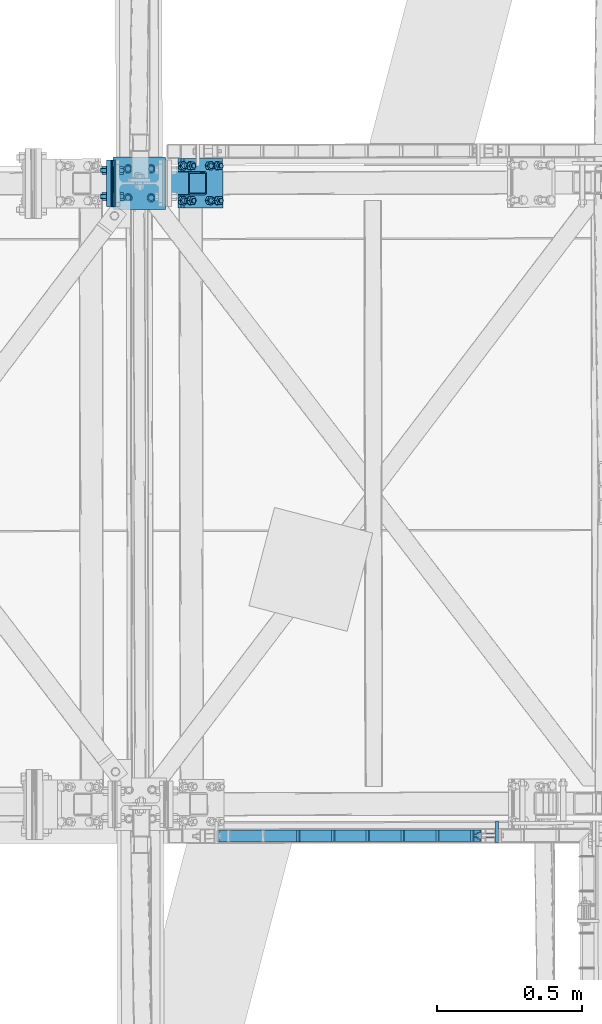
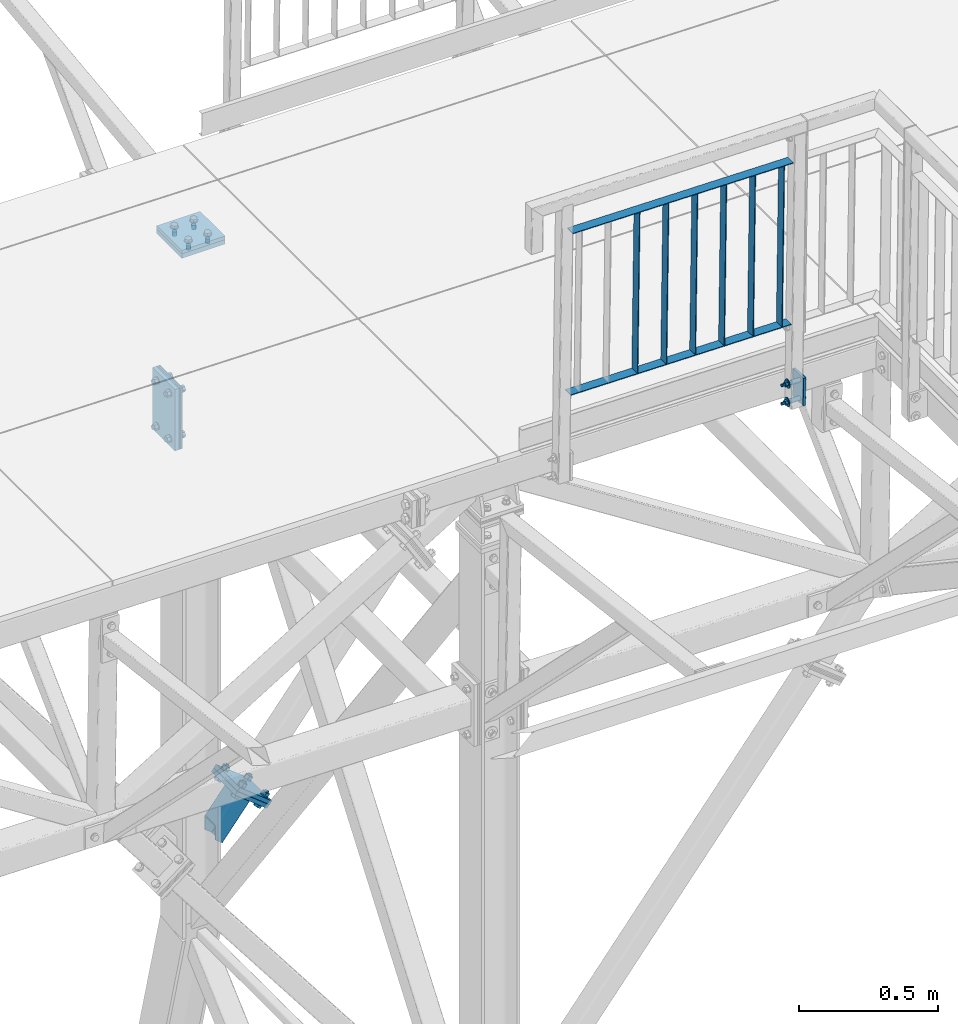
# One storey, part 107 of 169: 18 discrete accessories, 5 mechanical fasteners, 9 elements without a shape of their own.
"""IFC2X3 building model written with IfcOpenShell, lengths in millimetres."""

import ifcopenshell
import ifcopenshell.guid

model = None  # the IFC model being written
_history = None  # IfcOwnerHistory: only IFC2X3 demands one
_inside = {}  # id of a spatial element -> (the spatial element, [elements in it])
_under = {}  # id of a project, library or spatial element -> (it, [spatial elements below it])
_declared = {}  # id of a project -> (the project, [libraries it declares])
_typed = {}  # id of a type object -> (the type object, [elements of that type])
_made_of = {}  # id of a material, layer set ... -> (it, [elements and type objects made of it])


def new_model(schema):
    """Start an empty IFC model of exactly this schema.

    Asked for "IFC4X3", IfcOpenShell would pick the latest addendum, in which some entities
    have other attributes; the version numbers below select the first issue.
    IFC2X3 requires an IfcOwnerHistory on every rooted entity: one is made here for all.
    """
    global model, _history
    if schema == "IFC4X3":
        model = ifcopenshell.file(schema_version=(4, 3, 0, 0))
    else:
        model = ifcopenshell.file(schema=schema)
    _inside.clear()
    _under.clear()
    _declared.clear()
    _typed.clear()
    _made_of.clear()
    _history = None
    if model.schema == "IFC2X3":
        org = make("IfcOrganization", Name="unknown")
        user = make(
            "IfcPersonAndOrganization",
            ThePerson=make("IfcPerson", FamilyName="unknown"),
            TheOrganization=org,
        )
        app = make(
            "IfcApplication",
            ApplicationDeveloper=org,
            Version="unknown",
            ApplicationFullName="unknown",
            ApplicationIdentifier="unknown",
        )
        _history = make(
            "IfcOwnerHistory",
            OwningUser=user,
            OwningApplication=app,
            ChangeAction="ADDED",
            CreationDate=0,
        )
    return model


def make(cls, **values):
    """One entity of the class cls with the attributes given. An attribute that is None is left unset."""
    return model.create_entity(
        cls, **{name: value for name, value in values.items() if value is not None}
    )


def rooted(cls, **values):
    """An entity with a GlobalId (a new one), such as an element, a storey or a relation."""
    return make(cls, GlobalId=ifcopenshell.guid.new(), OwnerHistory=_history, **values)


def si_unit(unit_type, name, prefix=None):
    """IfcSIUnit, for example si_unit("LENGTHUNIT", "METRE", prefix="MILLI")."""
    return make("IfcSIUnit", UnitType=unit_type, Prefix=prefix, Name=name)


def assignment(units):
    """IfcUnitAssignment: the units of a project."""
    return None if units is None else make("IfcUnitAssignment", Units=units)


def point(xyz):
    """IfcCartesianPoint."""
    return None if xyz is None else make("IfcCartesianPoint", Coordinates=xyz)


def direction(xyz):
    """IfcDirection."""
    return None if xyz is None else make("IfcDirection", DirectionRatios=xyz)


def frame(location, z_axis=None, x_axis=None):
    """IfcAxis2Placement3D, a coordinate frame: its origin and axes. An axis left out is left unset."""
    return make(
        "IfcAxis2Placement3D",
        Location=point(location),
        Axis=direction(z_axis),
        RefDirection=direction(x_axis),
    )


def frame_2d(location, x_axis=None):
    """IfcAxis2Placement2D, a coordinate frame in the plane: its origin and x axis."""
    return make(
        "IfcAxis2Placement2D", Location=point(location), RefDirection=direction(x_axis)
    )


def origin_with_axes():
    """The frame at (0, 0, 0) with the z axis (0, 0, 1) and the x axis (1, 0, 0) written out."""
    return frame((0.0, 0.0, 0.0), z_axis=(0.0, 0.0, 1.0), x_axis=(1.0, 0.0, 0.0))


def origin_2d_with_axis():
    """The frame at (0, 0) in the plane with the x axis (1, 0) written out."""
    return frame_2d((0.0, 0.0), x_axis=(1.0, 0.0))


def place(relative_to, where):
    """IfcLocalPlacement: puts the frame where relative to a parent placement (None: the world)."""
    return make(
        "IfcLocalPlacement", PlacementRelTo=relative_to, RelativePlacement=where
    )


def context(
    kind, dimensions, precision=None, world=None, true_north=None, identifier=None
):
    """IfcGeometricRepresentationContext, for example the 3D "Model" context."""
    return make(
        "IfcGeometricRepresentationContext",
        ContextIdentifier=identifier,
        ContextType=kind,
        CoordinateSpaceDimension=dimensions,
        Precision=precision,
        WorldCoordinateSystem=world,
        TrueNorth=true_north,
    )


def subcontext(parent, identifier, kind, view, scale=None):
    """IfcGeometricRepresentationSubContext, for example "Body" below "Model"."""
    return make(
        "IfcGeometricRepresentationSubContext",
        ContextIdentifier=identifier,
        ContextType=kind,
        ParentContext=parent,
        TargetScale=scale,
        TargetView=view,
    )


def project(units=None, contexts=None):
    """IfcProject with its units and contexts."""
    return rooted(
        "IfcProject",
        Name="project",
        RepresentationContexts=contexts,
        UnitsInContext=assignment(units),
    )


def spatial(cls, under=None, at=None, **own):
    """A site, building, storey or space (cls), placed at a placement, below another one or the project."""
    s = rooted(cls, ObjectPlacement=at, **own)
    if under is not None:
        _under.setdefault(under.id(), (under, []))[1].append(s)
    return s


def polyline(points):
    """IfcPolyline through the points."""
    return make("IfcPolyline", Points=[point(p) for p in points])


def profile(cls, at=None, kind="AREA", **sizes):
    """A parametric profile (cls). Its sizes go by their IFC names, for example OverallWidth=200.0."""
    return make(cls, ProfileType=kind, Position=at, **sizes)


def rectangle(**sizes):
    """IfcRectangleProfileDef."""
    return profile("IfcRectangleProfileDef", **sizes)


def hollow_rectangle(**sizes):
    """IfcRectangleHollowProfileDef."""
    return profile("IfcRectangleHollowProfileDef", **sizes)


def circle(**sizes):
    """IfcCircleProfileDef."""
    return profile("IfcCircleProfileDef", **sizes)


def outline(outer, holes=None, kind="AREA"):
    """IfcArbitraryClosedProfileDef: a profile drawn as a closed curve; with holes, ...WithVoids."""
    if holes is None:
        return make("IfcArbitraryClosedProfileDef", ProfileType=kind, OuterCurve=outer)
    return make(
        "IfcArbitraryProfileDefWithVoids",
        ProfileType=kind,
        OuterCurve=outer,
        InnerCurves=holes,
    )


def extrude(swept, where, along, depth):
    """IfcExtrudedAreaSolid: the profile swept, set in the frame where, extruded along a direction by depth."""
    return make(
        "IfcExtrudedAreaSolid",
        SweptArea=swept,
        Position=where,
        ExtrudedDirection=direction(along),
        Depth=depth,
    )


def boolean(op, a, b):
    """IfcBooleanResult of two solids."""
    return make("IfcBooleanResult", Operator=op, FirstOperand=a, SecondOperand=b)


def clip(a, b, op="DIFFERENCE"):
    """IfcBooleanClippingResult: the solid a cut by the half space b."""
    return make(
        "IfcBooleanClippingResult", Operator=op, FirstOperand=a, SecondOperand=b
    )


def halfspace(plane, agree):
    """IfcHalfSpaceSolid: all space on one side of the plane z = 0 of the frame plane."""
    return make(
        "IfcHalfSpaceSolid",
        BaseSurface=make("IfcPlane", Position=plane),
        AgreementFlag=agree,
    )


def shape(context_of_items, identifier, shape_type, items):
    """IfcShapeRepresentation: the items that make up one representation, for example the "Body"."""
    return make(
        "IfcShapeRepresentation",
        ContextOfItems=context_of_items,
        RepresentationIdentifier=identifier,
        RepresentationType=shape_type,
        Items=items,
    )


def source(mapping_origin, context_of_items, identifier, shape_type, items):
    """IfcRepresentationMap: a shape defined once, which mapped items show again and again."""
    return make(
        "IfcRepresentationMap",
        MappingOrigin=mapping_origin,
        MappedRepresentation=shape(context_of_items, identifier, shape_type, items),
    )


def transform(
    local_origin,
    x_axis=None,
    y_axis=None,
    z_axis=None,
    scale=None,
    scale2=None,
    scale3=None,
    uniform=True,
):
    """IfcCartesianTransformationOperator3D, or its non-uniform kind. x_axis, y_axis, z_axis: its Axis1, 2, 3."""
    if uniform:
        return make(
            "IfcCartesianTransformationOperator3D",
            Axis1=direction(x_axis),
            Axis2=direction(y_axis),
            LocalOrigin=point(local_origin),
            Scale=scale,
            Axis3=direction(z_axis),
        )
    return make(
        "IfcCartesianTransformationOperator3DnonUniform",
        Axis1=direction(x_axis),
        Axis2=direction(y_axis),
        LocalOrigin=point(local_origin),
        Scale=scale,
        Axis3=direction(z_axis),
        Scale2=scale2,
        Scale3=scale3,
    )


def mapped(mapping_source, mapping_target):
    """IfcMappedItem: shows the shape of a source again, moved by a transform."""
    return make(
        "IfcMappedItem", MappingSource=mapping_source, MappingTarget=mapping_target
    )


def material(Name=None, Category=None):
    """IfcMaterial."""
    return make("IfcMaterial", Name=Name, Category=Category)


def made_of(thing, what):
    """Note that an element or type object is made of a material, layer set ...; save() writes the relation."""
    if what is not None:
        _made_of.setdefault(what.id(), (what, []))[1].append(thing)
    return thing


def type_object(cls, material=None, **own):
    """A type object (cls), such as IfcWallType, which elements share."""
    return made_of(rooted(cls, **own), material)


def element(
    cls,
    number,
    at=None,
    inside=None,
    cuts=None,
    type_object=None,
    material=None,
    context=None,
    identifier="Body",
    shape_type=None,
    held_by="IfcProductDefinitionShape",
    body=None,
    shapes=None,
    **own,
):
    """One element of the class cls, such as IfcWall. Its Tag is "e" and its number.

    at: its placement. inside: the storey or other place that contains it. cuts: it is an
    opening in that element (IfcRelVoidsElement). A single representation is given by context,
    identifier, shape_type and body (its items); several are given by shapes. held_by: the class
    of the entity that holds the representations. save() writes the other relations.
    """
    e = rooted(cls, Tag="e%d" % number, ObjectPlacement=at, **own)
    if body is not None:
        shapes = [shape(context, identifier, shape_type, body)]
    if shapes is not None:
        e.Representation = make(held_by, Representations=shapes)
    if inside is not None:
        _inside.setdefault(inside.id(), (inside, []))[1].append(e)
    if cuts is not None:
        rooted(
            "IfcRelVoidsElement", RelatingBuildingElement=cuts, RelatedOpeningElement=e
        )
    if type_object is not None:
        _typed.setdefault(type_object.id(), (type_object, []))[1].append(e)
    return made_of(e, material)


def aggregate(whole, parts):
    """IfcRelAggregates: a whole, such as a stair, and the parts it consists of."""
    return rooted("IfcRelAggregates", RelatingObject=whole, RelatedObjects=parts)


def save(model, path):
    """Write the relations noted so far, then the file.

    IfcRelAggregates (storeys below a building ...), IfcRelContainedInSpatialStructure (elements
    in a storey), IfcRelDefinesByType, IfcRelAssociatesMaterial and IfcRelDeclares: one each for
    every whole, place, type object, material and project.
    """
    for whole, parts in _under.values():
        aggregate(whole, parts)
    for where, things in _inside.values():
        rooted(
            "IfcRelContainedInSpatialStructure",
            RelatedElements=things,
            RelatingStructure=where,
        )
    for kind, things in _typed.values():
        rooted("IfcRelDefinesByType", RelatedObjects=things, RelatingType=kind)
    for what, things in _made_of.values():
        rooted("IfcRelAssociatesMaterial", RelatedObjects=things, RelatingMaterial=what)
    for by, libraries in _declared.values():
        rooted("IfcRelDeclares", RelatingContext=by, RelatedDefinitions=libraries)
    model.write(path)


model = new_model("IFC2X3")

# Units and contexts
model_context = context("Model", 3, precision=1e-05, world=origin_with_axes())
body_context = subcontext(model_context, "Body", "Model", "MODEL_VIEW")
ifc_project = project(units=[si_unit("LENGTHUNIT", "METRE", prefix="MILLI"), si_unit("AREAUNIT", "SQUARE_METRE"), si_unit("VOLUMEUNIT", "CUBIC_METRE"), si_unit("MASSUNIT", "GRAM", prefix="KILO"), si_unit("TIMEUNIT", "SECOND"), si_unit("PLANEANGLEUNIT", "RADIAN"), si_unit("SOLIDANGLEUNIT", "STERADIAN"), si_unit("THERMODYNAMICTEMPERATUREUNIT", "DEGREE_CELSIUS"), si_unit("LUMINOUSINTENSITYUNIT", "LUMEN")], contexts=[model_context])

# Site, building, storey
site_placement = place(None, origin_with_axes())
site = spatial("IfcSite", under=ifc_project, at=site_placement, Name="Undefined", CompositionType="ELEMENT")
building_placement = place(site_placement, origin_with_axes())
building = spatial("IfcBuilding", under=site, at=building_placement, Name="Undefined", CompositionType="ELEMENT")
storey_placement = place(building_placement, origin_with_axes())
storey = spatial("IfcBuildingStorey", under=building, at=storey_placement, Name="Undefined", CompositionType="ELEMENT", Elevation=0.0)

# Assembly, discrete accessory
assembly_1_placement = place(storey_placement, origin_with_axes())
assembly_1 = element("IfcElementAssembly", 1, at=assembly_1_placement, inside=storey, Name="Steel Assembly", AssemblyPlace="NOTDEFINED", PredefinedType="RIGID_FRAME")
ifc_material_1 = material(Name="STEEL/S235")
discrete_accessory_type_1 = type_object("IfcDiscreteAccessoryType", Name="BLACHA")
discrete_accessory_1_placement = place(assembly_1_placement, frame((7352.03380305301, 58.7244957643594, 13860.7988221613), z_axis=(-0.999917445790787, -0.00186469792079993, 0.0127131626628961), x_axis=(0.00186484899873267, -0.999998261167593, 4.28757666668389e-08)))
discrete_accessory_1 = element("IfcDiscreteAccessory", 2, at=discrete_accessory_1_placement, type_object=discrete_accessory_type_1, material=ifc_material_1, Name="BLACHA", ObjectType="BL10*120", context=body_context, shape_type="SweptSolid", body=[
    extrude(outline(polyline([(75.0000002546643, -60.0000000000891), (-5.35749222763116e-11, -59.9999999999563), (5.3567816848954e-11, 59.9999999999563), (75.0000002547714, 59.9999999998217), (75.0000002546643, -60.0000000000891)])), frame((-1.81898926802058e-12, -1.18000176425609e-16, -5.00000000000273), z_axis=(0.0, 0.0, 1.0), x_axis=(1.0, 0.0, 0.0)), (0.0, 0.0, 1.0), 10.0),
])
aggregate(assembly_1, [discrete_accessory_1])

assembly_2_placement = place(storey_placement, origin_with_axes())
assembly_2 = element("IfcElementAssembly", 3, at=assembly_2_placement, inside=storey, Name="Steel Assembly", AssemblyPlace="NOTDEFINED", PredefinedType="RIGID_FRAME")
ifc_material_2 = material(Name="STEEL/S355")
discrete_accessory_2_placement = place(assembly_2_placement, frame((6035.64555607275, 2336.27365082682, 12877.763040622), z_axis=(-0.99999826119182, -0.00186483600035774, -1.66000011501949e-07), x_axis=(0.00186484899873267, -0.999998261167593, 4.28757666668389e-08)))
discrete_accessory_2 = element("IfcDiscreteAccessory", 4, at=discrete_accessory_2_placement, type_object=discrete_accessory_type_1, material=ifc_material_2, Name="BLACHA", ObjectType="BL5*270", context=body_context, shape_type="SweptSolid", body=[
    extrude(outline(polyline([(-1.23236532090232e-10, -135.000000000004), (1.22781784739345e-10, 135.000000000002), (159.999999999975, 134.999999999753), (159.99999999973, -135.000000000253), (-1.23236532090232e-10, -135.000000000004)])), frame((6.80888809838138e-19, -2.87858853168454e-21, -2.49999999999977), z_axis=(0.0, 0.0, 1.0), x_axis=(1.0, 0.0, 0.0)), (0.0, 0.0, 1.0), 5.0),
])
aggregate(assembly_2, [discrete_accessory_2])

assembly_3_placement = place(storey_placement, origin_with_axes())
assembly_3 = element("IfcElementAssembly", 5, at=assembly_3_placement, inside=storey, Name="Steel Assembly", AssemblyPlace="NOTDEFINED", PredefinedType="RIGID_FRAME")
discrete_accessory_3_placement = place(assembly_3_placement, frame((6030.6455647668, 2336.26432664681, 12877.763039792), z_axis=(-0.99999826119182, -0.00186483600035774, -1.66000011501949e-07), x_axis=(0.00186484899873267, -0.999998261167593, 4.28757666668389e-08)))
discrete_accessory_3 = element("IfcDiscreteAccessory", 6, at=discrete_accessory_3_placement, type_object=discrete_accessory_type_1, material=ifc_material_2, Name="BLACHA", ObjectType="BL5*270", context=body_context, shape_type="SweptSolid", body=[
    extrude(outline(polyline([(-1.23236532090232e-10, -135.000000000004), (1.22781784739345e-10, 135.000000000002), (159.999999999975, 134.999999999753), (159.99999999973, -135.000000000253), (-1.23236532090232e-10, -135.000000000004)])), frame((6.80888809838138e-19, -2.87858853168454e-21, -2.49999999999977), z_axis=(0.0, 0.0, 1.0), x_axis=(1.0, 0.0, 0.0)), (0.0, 0.0, 1.0), 5.0),
])
aggregate(assembly_3, [discrete_accessory_3])

assembly_4_placement = place(storey_placement, origin_with_axes())
assembly_4 = element("IfcElementAssembly", 7, at=assembly_4_placement, inside=storey, Name="Steel Assembly", AssemblyPlace="NOTDEFINED", PredefinedType="RIGID_FRAME")
discrete_accessory_4_placement = place(assembly_4_placement, frame((6025.64557346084, 2336.25500246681, 12877.763038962), z_axis=(-0.99999826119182, -0.00186483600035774, -1.66000011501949e-07), x_axis=(0.00186484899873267, -0.999998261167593, 4.28757666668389e-08)))
discrete_accessory_4 = element("IfcDiscreteAccessory", 8, at=discrete_accessory_4_placement, type_object=discrete_accessory_type_1, material=ifc_material_2, Name="BLACHA", ObjectType="BL5*270", context=body_context, shape_type="SweptSolid", body=[
    extrude(outline(polyline([(-1.23236532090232e-10, -135.000000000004), (1.22781784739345e-10, 135.000000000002), (159.999999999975, 134.999999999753), (159.99999999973, -135.000000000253), (-1.23236532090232e-10, -135.000000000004)])), frame((6.80888809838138e-19, -2.87858853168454e-21, -2.49999999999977), z_axis=(0.0, 0.0, 1.0), x_axis=(1.0, 0.0, 0.0)), (0.0, 0.0, 1.0), 5.0),
])
aggregate(assembly_4, [discrete_accessory_4])

assembly_5_placement = place(storey_placement, origin_with_axes())
assembly_5 = element("IfcElementAssembly", 9, at=assembly_5_placement, inside=storey, Name="Steel Assembly", AssemblyPlace="NOTDEFINED", PredefinedType="RIGID_FRAME")
discrete_accessory_5_placement = place(assembly_5_placement, frame((6015.14559171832, 2336.23542168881, 12877.763037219), z_axis=(-0.99999826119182, -0.00186483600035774, -1.66000011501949e-07), x_axis=(0.00186484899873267, -0.999998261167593, 4.28757666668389e-08)))
discrete_accessory_5 = element("IfcDiscreteAccessory", 10, at=discrete_accessory_5_placement, type_object=discrete_accessory_type_1, material=ifc_material_2, Name="BLACHA", ObjectType="BL16*270", context=body_context, shape_type="SweptSolid", body=[
    extrude(outline(polyline([(-1.23236532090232e-10, -135.000000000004), (1.22781784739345e-10, 135.000000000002), (159.999999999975, 134.999999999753), (159.99999999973, -135.000000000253), (-1.23236532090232e-10, -135.000000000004)])), frame((4.54778590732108e-13, 0.0, -8.0), z_axis=(0.0, 0.0, 1.0), x_axis=(1.0, 0.0, 0.0)), (0.0, 0.0, 1.0), 16.0),
])

assembly_6_placement = place(storey_placement, origin_with_axes())
assembly_6 = element("IfcElementAssembly", 11, at=assembly_6_placement, inside=storey, Name="Steel Assembly", AssemblyPlace="NOTDEFINED", PredefinedType="RIGID_FRAME")
discrete_accessory_6_placement = place(assembly_6_placement, frame((6402.35404808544, 2256.95733078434, 11065.3972305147), z_axis=(0.00186484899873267, -0.999998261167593, 4.28757666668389e-08), x_axis=(-0.784458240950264, -0.00146288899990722, 0.620179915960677)))
discrete_accessory_6 = element("IfcDiscreteAccessory", 12, at=discrete_accessory_6_placement, type_object=discrete_accessory_type_1, material=ifc_material_2, Name="BLACHA", ObjectType="BL16*170", context=body_context, shape_type="SweptSolid", body=[
    extrude(rectangle(XDim=16.0, YDim=170.0, at=origin_2d_with_axis()), frame((169.999999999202, 0.0, -3.62691994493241e-12), z_axis=(-1.0, -3.46944695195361e-18, -1.38777878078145e-17), x_axis=(1.73472347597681e-18, -1.0, 0.0)), (0.0, 0.0, 1.0), 170.0),
])

assembly_7_placement = place(storey_placement, origin_with_axes())
assembly_7 = element("IfcElementAssembly", 13, at=assembly_7_placement, inside=storey, Name="Steel Assembly", AssemblyPlace="NOTDEFINED", PredefinedType="RIGID_FRAME")
discrete_accessory_7_placement = place(assembly_7_placement, frame((6391.81100776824, 2256.93766976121, 11052.0614172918), z_axis=(0.00186484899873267, -0.999998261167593, 4.28757666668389e-08), x_axis=(-0.784458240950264, -0.00146288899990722, 0.620179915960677)))
discrete_accessory_7 = element("IfcDiscreteAccessory", 14, at=discrete_accessory_7_placement, type_object=discrete_accessory_type_1, material=ifc_material_2, Name="BLACHA", ObjectType="BL16*170", context=body_context, shape_type="SweptSolid", body=[
    extrude(rectangle(XDim=16.0, YDim=170.0, at=origin_2d_with_axis()), frame((169.999999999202, 0.0, -3.62691994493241e-12), z_axis=(-1.0, -3.46944695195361e-18, -1.38777878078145e-17), x_axis=(1.73472347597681e-18, -1.0, 0.0)), (0.0, 0.0, 1.0), 170.0),
])

assembly_8_placement = place(storey_placement, origin_with_axes())
assembly_8 = element("IfcElementAssembly", 15, at=assembly_8_placement, inside=storey, Name="Steel Assembly", AssemblyPlace="NOTDEFINED", PredefinedType="RIGID_FRAME")
discrete_accessory_8_placement = place(assembly_8_placement, frame((6030.46215274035, 2166.2654649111, 13612.6228127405), z_axis=(-0.00159590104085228, -7.90102138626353e-06, 0.99999872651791), x_axis=(0.999996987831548, 0.00186477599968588, 0.00159591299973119)))
discrete_accessory_8 = element("IfcDiscreteAccessory", 16, at=discrete_accessory_8_placement, type_object=discrete_accessory_type_1, material=ifc_material_2, Name="BLACHA", ObjectType="BL15*180", context=body_context, shape_type="SweptSolid", body=[
    extrude(outline(polyline([(0.0, 0.0), (180.000000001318, 1.73212200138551e-09), (180.000000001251, 180.000000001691), (4.5656634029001e-10, 180.000000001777), (0.0, 0.0)])), frame((0.0, -1.24077091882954e-23, -7.49999999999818), z_axis=(0.0, 0.0, 1.0), x_axis=(1.0, 0.0, 0.0)), (0.0, 0.0, 1.0), 15.0),
])
aggregate(assembly_8, [discrete_accessory_8])

# Discrete accessory
discrete_accessory_9_placement = place(assembly_7_placement, frame((6030.49008174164, 2166.26560318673, 13595.1223772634), z_axis=(-0.00159590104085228, -7.90102138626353e-06, 0.99999872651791), x_axis=(0.999996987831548, 0.00186477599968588, 0.00159591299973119)))
discrete_accessory_9 = element("IfcDiscreteAccessory", 17, at=discrete_accessory_9_placement, type_object=discrete_accessory_type_1, material=ifc_material_1, Name="BLACHA", ObjectType="BL20*180", context=body_context, shape_type="SweptSolid", body=[
    extrude(outline(polyline([(0.0, 0.0), (180.000000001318, 1.73212200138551e-09), (180.000000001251, 180.000000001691), (4.5656634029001e-10, 180.000000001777), (0.0, 0.0)])), frame((-4.54746113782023e-13, 1.81900675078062e-12, -9.99999999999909), z_axis=(0.0, 0.0, 1.0), x_axis=(1.0, 0.0, 0.0)), (0.0, 0.0, 1.0), 20.0),
])

discrete_accessory_type_2 = type_object("IfcDiscreteAccessoryType", Name="BEAM")
discrete_accessory_10_placement = place(assembly_7_placement, frame((6119.29644221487, 2256.42944518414, 10844.4167696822), z_axis=(-0.784458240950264, -0.00146288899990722, 0.620179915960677), x_axis=(0.620178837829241, 0.00115653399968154, 0.784459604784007)))
discrete_accessory_10 = element("IfcDiscreteAccessory", 18, at=discrete_accessory_10_placement, type_object=discrete_accessory_type_2, material=ifc_material_2, Name="BEAM", ObjectType="K80/4", context=body_context, shape_type="Clipping", body=[
    clip(clip(extrude(hollow_rectangle(XDim=80.0, YDim=80.0, WallThickness=4.0, InnerFilletRadius=4.0, OuterFilletRadius=8.0, at=origin_2d_with_axis()), frame((323.897192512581, 4.01426750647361e-17, 6.64141120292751e-13), z_axis=(-1.0, -3.46944695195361e-18, -1.38777878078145e-17), x_axis=(1.73472347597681e-18, -1.0, 0.0)), (0.0, 0.0, 1.0), 194.9), halfspace(frame((323.897192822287, 1.7002164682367e-05, -999.999999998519), z_axis=(-1.0, -3.46944695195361e-18, -1.38777878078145e-17), x_axis=(0.0, 1.0, 0.0)), True)), halfspace(frame((834.071475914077, -9.51096781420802e-06, 557.423286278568), z_axis=(0.620180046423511, 1.285070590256e-08, -0.784459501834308), x_axis=(0.0, 1.0, 0.0)), True)),
])

# Assembly, discrete accessories, mechanical fastener
assembly_9_placement = place(storey_placement, origin_with_axes())
assembly_9 = element("IfcElementAssembly", 19, at=assembly_9_placement, inside=storey, Name="Steel Assembly", AssemblyPlace="NOTDEFINED", PredefinedType="RIGID_FRAME")
discrete_accessory_type_3 = type_object("IfcDiscreteAccessoryType", Name="PORĘCZ")
discrete_accessory_11_placement = place(assembly_9_placement, frame((6368.41870537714, 6.89015606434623, 14888.3879340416), z_axis=(-0.012713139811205, -2.37511238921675e-05, -0.999919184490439), x_axis=(0.9999174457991, 0.00186469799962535, -0.0127131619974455)))
discrete_accessory_11 = element("IfcDiscreteAccessory", 20, at=discrete_accessory_11_placement, type_object=discrete_accessory_type_3, material=ifc_material_1, Name="PORĘCZ", ObjectType="BL40*3", context=body_context, shape_type="CSG", body=[
    boolean("DIFFERENCE", boolean("DIFFERENCE", extrude(outline(polyline([(25.4999999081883, 20.0000000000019), (941.194458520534, 20.0000000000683), (941.194458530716, -19.9999999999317), (25.499999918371, -19.9999999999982), (25.4999999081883, 20.0000000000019)])), frame((1.81898940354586e-12, -1.77635442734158e-15, -1.50000000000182), z_axis=(0.0, 0.0, 1.0), x_axis=(1.0, 0.0, 0.0)), (0.0, 0.0, 1.0), 3.0), extrude(rectangle(XDim=51.0, YDim=51.0, at=origin_2d_with_axis()), frame((-5.94487782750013e-08, -4.65977194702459e-09, -139.999999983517), z_axis=(0.0, 0.0, 1.0), x_axis=(1.0, 0.0, 0.0)), (0.0, 0.0, 1.0), 280.0)), extrude(rectangle(XDim=51.0, YDim=51.0, at=origin_2d_with_axis()), frame((966.694458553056, -6.96000839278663e-09, -139.999999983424), z_axis=(0.0, 0.0, 1.0), x_axis=(1.0, 0.0, 0.0)), (0.0, 0.0, 1.0), 280.0)),
])
discrete_accessory_12_placement = place(assembly_9_placement, frame((6673.58429724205, 7.45925095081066, 15029.5197133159), z_axis=(0.00186484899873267, -0.999998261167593, 4.28757666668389e-08), x_axis=(-0.012713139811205, -2.37511238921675e-05, -0.999919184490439)))
discrete_accessory_12 = element("IfcDiscreteAccessory", 21, at=discrete_accessory_12_placement, type_object=discrete_accessory_type_3, material=ifc_material_1, Name="PORĘCZ", ObjectType="BL40*3", context=body_context, shape_type="Clipping", body=[
    clip(clip(extrude(rectangle(XDim=3.0, YDim=40.0, at=origin_2d_with_axis()), frame((848.500000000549, 1.47191286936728e-15, -8.89750592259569e-16), z_axis=(-1.0, -3.46944695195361e-18, -1.38777878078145e-17), x_axis=(1.73472347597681e-18, -1.0, 0.0)), (0.0, 0.0, 1.0), 702.0), halfspace(frame((848.499999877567, 4.522007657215e-09, 1000.00000000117), z_axis=(-1.0, -3.46944695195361e-18, -1.38777878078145e-17), x_axis=(1.73472347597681e-18, -1.0, 0.0)), True)), halfspace(frame((146.499999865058, 4.97311702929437e-09, 1000.00000000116), z_axis=(1.0, 0.0, 0.0), x_axis=(0.0, 1.0, 0.0)), True)),
])
discrete_accessory_13_placement = place(assembly_9_placement, frame((6793.57439073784, 7.68301471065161, 15027.9941338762), z_axis=(0.00186484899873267, -0.999998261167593, 4.28757666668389e-08), x_axis=(-0.012713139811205, -2.37511238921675e-05, -0.999919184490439)))
discrete_accessory_13 = element("IfcDiscreteAccessory", 22, at=discrete_accessory_13_placement, type_object=discrete_accessory_type_3, material=ifc_material_1, Name="PORĘCZ", ObjectType="BL40*3", context=body_context, shape_type="Clipping", body=[
    clip(clip(extrude(rectangle(XDim=3.0, YDim=40.0, at=origin_2d_with_axis()), frame((848.500000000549, 1.47191286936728e-15, -8.89750592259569e-16), z_axis=(-1.0, -3.46944695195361e-18, -1.38777878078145e-17), x_axis=(1.73472347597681e-18, -1.0, 0.0)), (0.0, 0.0, 1.0), 702.0), halfspace(frame((848.499999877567, 4.522007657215e-09, 1000.00000000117), z_axis=(-1.0, -3.46944695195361e-18, -1.38777878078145e-17), x_axis=(1.73472347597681e-18, -1.0, 0.0)), True)), halfspace(frame((146.499999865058, 4.97311702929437e-09, 1000.00000000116), z_axis=(1.0, 0.0, 0.0), x_axis=(0.0, 1.0, 0.0)), True)),
])
discrete_accessory_14_placement = place(assembly_9_placement, frame((6913.56448423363, 7.90677847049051, 15026.4685544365), z_axis=(0.00186484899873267, -0.999998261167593, 4.28757666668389e-08), x_axis=(-0.012713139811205, -2.37511238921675e-05, -0.999919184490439)))
discrete_accessory_14 = element("IfcDiscreteAccessory", 23, at=discrete_accessory_14_placement, type_object=discrete_accessory_type_3, material=ifc_material_1, Name="PORĘCZ", ObjectType="BL40*3", context=body_context, shape_type="Clipping", body=[
    clip(clip(extrude(rectangle(XDim=3.0, YDim=40.0, at=origin_2d_with_axis()), frame((848.500000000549, 1.47191286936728e-15, -8.89750592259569e-16), z_axis=(-1.0, -3.46944695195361e-18, -1.38777878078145e-17), x_axis=(1.73472347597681e-18, -1.0, 0.0)), (0.0, 0.0, 1.0), 702.0), halfspace(frame((848.499999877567, 4.522007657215e-09, 1000.00000000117), z_axis=(-1.0, -3.46944695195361e-18, -1.38777878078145e-17), x_axis=(1.73472347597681e-18, -1.0, 0.0)), True)), halfspace(frame((146.499999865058, 4.97311702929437e-09, 1000.00000000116), z_axis=(1.0, 0.0, 0.0), x_axis=(0.0, 1.0, 0.0)), True)),
])
discrete_accessory_15_placement = place(assembly_9_placement, frame((7033.55457772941, 8.13054223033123, 15024.9429749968), z_axis=(0.00186484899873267, -0.999998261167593, 4.28757666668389e-08), x_axis=(-0.012713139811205, -2.37511238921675e-05, -0.999919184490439)))
discrete_accessory_15 = element("IfcDiscreteAccessory", 24, at=discrete_accessory_15_placement, type_object=discrete_accessory_type_3, material=ifc_material_1, Name="PORĘCZ", ObjectType="BL40*3", context=body_context, shape_type="Clipping", body=[
    clip(clip(extrude(rectangle(XDim=3.0, YDim=40.0, at=origin_2d_with_axis()), frame((848.500000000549, 1.47191286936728e-15, -8.89750592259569e-16), z_axis=(-1.0, -3.46944695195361e-18, -1.38777878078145e-17), x_axis=(1.73472347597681e-18, -1.0, 0.0)), (0.0, 0.0, 1.0), 702.0), halfspace(frame((848.499999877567, 4.522007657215e-09, 1000.00000000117), z_axis=(-1.0, -3.46944695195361e-18, -1.38777878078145e-17), x_axis=(1.73472347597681e-18, -1.0, 0.0)), True)), halfspace(frame((146.499999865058, 4.97311702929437e-09, 1000.00000000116), z_axis=(1.0, 0.0, 0.0), x_axis=(0.0, 1.0, 0.0)), True)),
])
discrete_accessory_16_placement = place(assembly_9_placement, frame((7153.5446712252, 8.35430599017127, 15023.4173955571), z_axis=(0.00186484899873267, -0.999998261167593, 4.28757666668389e-08), x_axis=(-0.012713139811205, -2.37511238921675e-05, -0.999919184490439)))
discrete_accessory_16 = element("IfcDiscreteAccessory", 25, at=discrete_accessory_16_placement, type_object=discrete_accessory_type_3, material=ifc_material_1, Name="PORĘCZ", ObjectType="BL40*3", context=body_context, shape_type="Clipping", body=[
    clip(clip(extrude(rectangle(XDim=3.0, YDim=40.0, at=origin_2d_with_axis()), frame((848.500000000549, 1.47191286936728e-15, -8.89750592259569e-16), z_axis=(-1.0, -3.46944695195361e-18, -1.38777878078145e-17), x_axis=(1.73472347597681e-18, -1.0, 0.0)), (0.0, 0.0, 1.0), 702.0), halfspace(frame((848.499999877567, 4.522007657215e-09, 1000.00000000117), z_axis=(-1.0, -3.46944695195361e-18, -1.38777878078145e-17), x_axis=(1.73472347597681e-18, -1.0, 0.0)), True)), halfspace(frame((146.499999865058, 4.97311702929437e-09, 1000.00000000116), z_axis=(1.0, 0.0, 0.0), x_axis=(0.0, 1.0, 0.0)), True)),
])
discrete_accessory_17_placement = place(assembly_9_placement, frame((7273.53476472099, 8.57806975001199, 15021.8918161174), z_axis=(0.00186484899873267, -0.999998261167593, 4.28757666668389e-08), x_axis=(-0.012713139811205, -2.37511238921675e-05, -0.999919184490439)))
discrete_accessory_17 = element("IfcDiscreteAccessory", 26, at=discrete_accessory_17_placement, type_object=discrete_accessory_type_3, material=ifc_material_1, Name="PORĘCZ", ObjectType="BL40*3", context=body_context, shape_type="Clipping", body=[
    clip(clip(extrude(rectangle(XDim=3.0, YDim=40.0, at=origin_2d_with_axis()), frame((848.500000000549, 1.47191286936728e-15, -8.89750592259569e-16), z_axis=(-1.0, -3.46944695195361e-18, -1.38777878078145e-17), x_axis=(1.73472347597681e-18, -1.0, 0.0)), (0.0, 0.0, 1.0), 702.0), halfspace(frame((848.499999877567, 4.522007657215e-09, 1000.00000000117), z_axis=(-1.0, -3.46944695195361e-18, -1.38777878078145e-17), x_axis=(1.73472347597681e-18, -1.0, 0.0)), True)), halfspace(frame((146.499999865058, 4.97311702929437e-09, 1000.00000000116), z_axis=(1.0, 0.0, 0.0), x_axis=(0.0, 1.0, 0.0)), True)),
])
discrete_accessory_18_placement = place(assembly_9_placement, frame((6359.45594180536, 6.87341152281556, 14183.4449089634), z_axis=(-0.012713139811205, -2.37511238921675e-05, -0.999919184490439), x_axis=(0.9999174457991, 0.00186469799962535, -0.0127131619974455)))
discrete_accessory_18 = element("IfcDiscreteAccessory", 27, at=discrete_accessory_18_placement, type_object=discrete_accessory_type_3, material=ifc_material_1, Name="PORĘCZ", ObjectType="BL40*3", context=body_context, shape_type="CSG", body=[
    boolean("DIFFERENCE", boolean("DIFFERENCE", extrude(outline(polyline([(25.4999999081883, 20.0000000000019), (941.194458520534, 20.0000000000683), (941.194458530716, -19.9999999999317), (25.499999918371, -19.9999999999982), (25.4999999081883, 20.0000000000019)])), frame((1.81898940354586e-12, -1.77635442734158e-15, -1.50000000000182), z_axis=(0.0, 0.0, 1.0), x_axis=(1.0, 0.0, 0.0)), (0.0, 0.0, 1.0), 3.0), extrude(rectangle(XDim=51.0, YDim=51.0, at=origin_2d_with_axis()), frame((-5.94487782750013e-08, -4.65977194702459e-09, -139.999999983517), z_axis=(0.0, 0.0, 1.0), x_axis=(1.0, 0.0, 0.0)), (0.0, 0.0, 1.0), 280.0)), extrude(rectangle(XDim=51.0, YDim=51.0, at=origin_2d_with_axis()), frame((966.694458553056, -6.96000839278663e-09, -139.999999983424), z_axis=(0.0, 0.0, 1.0), x_axis=(1.0, 0.0, 0.0)), (0.0, 0.0, 1.0), 280.0)),
])
ifc_material_3 = material(Name="Undefined")
discrete_accessory_type_4 = type_object("IfcDiscreteAccessoryType", Name="Bolt assembly")
shared_shape_1 = source(origin_with_axes(), body_context, "Body", "SweptSolid", [
    extrude(circle(Radius=9.0, at=origin_2d_with_axis()), frame((0.0, -4.90000000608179, 0.0), z_axis=(0.0, 1.0, 0.0), x_axis=(1.0, 0.0, 0.0)), (0.0, 0.0, 1.0), 10.0),
    extrude(circle(Radius=9.0, at=origin_2d_with_axis()), frame((0.0, 4.89999999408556, 0.0), z_axis=(0.0, 1.0, 0.0), x_axis=(1.0, 0.0, 0.0)), (0.0, 0.0, 1.0), 50.1),
    extrude(outline(polyline([(10.39230484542, 0.0), (5.19615242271, 9.00000000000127), (-5.19615242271, 9.00000000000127), (-10.39230484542, 0.0), (-5.19615242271, -9.00000000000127), (5.19615242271, -9.00000000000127), (10.39230484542, 0.0)])), frame((0.0, -15.5000000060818, 0.0), z_axis=(0.0, 1.0, 0.0), x_axis=(1.0, 0.0, 0.0)), (0.0, 0.0, 1.0), 7.5),
    extrude(circle(Radius=6.0, at=origin_2d_with_axis()), frame((0.0, -8.00000000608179, 0.0), z_axis=(0.0, 1.0, 0.0), x_axis=(1.0, 0.0, 0.0)), (0.0, 0.0, 1.0), 90.0),
    extrude(circle(Radius=18.5, at=origin_2d_with_axis()), frame((0.0, -8.00000000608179, 0.0), z_axis=(0.0, 1.0, 0.0), x_axis=(1.0, 0.0, 0.0)), (0.0, 0.0, 1.0), 3.0),
    extrude(circle(Radius=18.5, at=origin_2d_with_axis()), frame((0.0, 54.9999999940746, 0.0), z_axis=(0.0, 1.0, 0.0), x_axis=(1.0, 0.0, 0.0)), (0.0, 0.0, 1.0), 3.0),
    extrude(outline(polyline([(10.96965511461, 0.0), (5.484827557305, 9.50000000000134), (-5.484827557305, 9.50000000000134), (-10.96965511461, 0.0), (-5.484827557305, -9.50000000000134), (5.484827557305, -9.50000000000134), (10.96965511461, 0.0)])), frame((0.0, 57.9999999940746, 0.0), z_axis=(0.0, 1.0, 0.0), x_axis=(1.0, 0.0, 0.0)), (0.0, 0.0, 1.0), 10.0),
])
mechanical_fastener_1_placement = place(assembly_9_placement, frame((7352.13340212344, 8.72459432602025, 13861.2987838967), z_axis=(0.0127140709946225, -0.00047624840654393, 0.999919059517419), x_axis=(-0.00185849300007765, 0.999998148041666, 0.000499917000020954)))
mechanical_fastener_1 = element("IfcMechanicalFastener", 28, at=mechanical_fastener_1_placement, type_object=discrete_accessory_type_4, material=ifc_material_3, Name="Bolt assembly", NominalDiameter=12.0, NominalLength=90.0, context=body_context, shape_type="MappedRepresentation", body=[
    mapped(shared_shape_1, transform((-1.15463194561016e-14, 5.45696821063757e-11, -39.9999999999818))),
    mapped(shared_shape_1, transform((8.88178419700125e-15, -5.54791768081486e-11, 39.99999999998))),
])
aggregate(assembly_9, [discrete_accessory_11, discrete_accessory_12, discrete_accessory_13, discrete_accessory_14, discrete_accessory_15, discrete_accessory_16, discrete_accessory_17, discrete_accessory_18, mechanical_fastener_1])

# Mechanical fastener
shared_shape_2 = source(origin_with_axes(), body_context, "Body", "SweptSolid", [
    extrude(circle(Radius=9.5, at=origin_2d_with_axis()), frame((0.0, -22.3999994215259, 0.0), z_axis=(0.0, 1.0, 0.0), x_axis=(1.0, 0.0, 0.0)), (0.0, 0.0, 1.0), 13.0),
    extrude(circle(Radius=9.5, at=origin_2d_with_axis()), frame((0.0, 6.39999999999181, 0.0), z_axis=(0.0, 1.0, 0.0), x_axis=(1.0, 0.0, 0.0)), (0.0, 0.0, 1.0), 16.1),
    extrude(circle(Radius=9.5, at=origin_2d_with_axis()), frame((0.0, 1.49999999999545, 0.0), z_axis=(0.0, 1.0, 0.0), x_axis=(1.0, 0.0, 0.0)), (0.0, 0.0, 1.0), 5.0),
    extrude(circle(Radius=9.5, at=origin_2d_with_axis()), frame((0.0, -3.50000000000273, 0.0), z_axis=(0.0, 1.0, 0.0), x_axis=(1.0, 0.0, 0.0)), (0.0, 0.0, 1.0), 5.0),
    extrude(circle(Radius=9.5, at=origin_2d_with_axis()), frame((0.0, -8.50000000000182, 0.0), z_axis=(0.0, 1.0, 0.0), x_axis=(1.0, 0.0, 0.0)), (0.0, 0.0, 1.0), 5.0),
    extrude(outline(polyline([(13.85640646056, 0.0), (6.92820323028, 12.0000000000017), (-6.92820323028, 12.0000000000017), (-13.85640646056, 0.0), (-6.92820323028, -12.0000000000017), (6.92820323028, -12.0000000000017), (13.85640646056, 0.0)])), frame((0.0, -35.4999994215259, 0.0), z_axis=(0.0, 1.0, 0.0), x_axis=(1.0, 0.0, 0.0)), (0.0, 0.0, 1.0), 10.0),
    extrude(circle(Radius=8.0, at=origin_2d_with_axis()), frame((0.0, -25.4999994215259, 0.0), z_axis=(0.0, 1.0, 0.0), x_axis=(1.0, 0.0, 0.0)), (0.0, 0.0, 1.0), 70.0),
    extrude(circle(Radius=15.0, at=origin_2d_with_axis()), frame((0.0, -25.4999994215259, 0.0), z_axis=(0.0, 1.0, 0.0), x_axis=(1.0, 0.0, 0.0)), (0.0, 0.0, 1.0), 3.0),
    extrude(circle(Radius=15.0, at=origin_2d_with_axis()), frame((0.0, 22.49999999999, 0.0), z_axis=(0.0, 1.0, 0.0), x_axis=(1.0, 0.0, 0.0)), (0.0, 0.0, 1.0), 3.0),
    extrude(outline(polyline([(13.85640646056, 0.0), (6.92820323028, 12.0000000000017), (-6.92820323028, 12.0000000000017), (-13.85640646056, 0.0), (-6.92820323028, -12.0000000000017), (6.92820323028, -12.0000000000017), (13.85640646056, 0.0)])), frame((0.0, 25.49999999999, 0.0), z_axis=(0.0, 1.0, 0.0), x_axis=(1.0, 0.0, 0.0)), (0.0, 0.0, 1.0), 13.0),
])
mechanical_fastener_2_placement = place(assembly_5_placement, frame((6029.90664354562, 2196.26270524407, 12877.7630456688), z_axis=(0.0, 0.0, 1.0), x_axis=(-0.0018648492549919, 0.999998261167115, -4.2996762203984e-08)))
mechanical_fastener_2 = element("IfcMechanicalFastener", 29, at=mechanical_fastener_2_placement, type_object=discrete_accessory_type_4, material=ifc_material_3, Name="Bolt assembly", NominalDiameter=16.0, NominalLength=70.0, context=body_context, shape_type="MappedRepresentation", body=[
    mapped(shared_shape_2, transform((15.0000000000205, 6.3664629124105e-12, -99.9999999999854))),
    mapped(shared_shape_2, transform((14.9999999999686, -2.00088834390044e-11, 100.00000000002))),
    mapped(shared_shape_2, transform((104.999999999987, -3.45607986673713e-11, -99.9999999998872))),
    mapped(shared_shape_2, transform((104.999999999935, -6.09361450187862e-11, 100.00000000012))),
])

aggregate(assembly_5, [mechanical_fastener_2, discrete_accessory_5])

shared_shape_3 = source(origin_with_axes(), body_context, "Body", "SweptSolid", [
    extrude(circle(Radius=9.5, at=origin_2d_with_axis()), frame((0.0, -16.3999999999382, 0.0), z_axis=(0.0, 1.0, 0.0), x_axis=(1.0, 0.0, 0.0)), (0.0, 0.0, 1.0), 16.0),
    extrude(circle(Radius=9.5, at=origin_2d_with_axis()), frame((0.0, 0.400000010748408, 0.0), z_axis=(0.0, 1.0, 0.0), x_axis=(1.0, 0.0, 0.0)), (0.0, 0.0, 1.0), 16.1),
    extrude(outline(polyline([(15.58845726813, 0.0), (7.794228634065, 13.5000000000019), (-7.794228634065, 13.5000000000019), (-15.58845726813, 0.0), (-7.794228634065, -13.5000000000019), (7.794228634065, -13.5000000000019), (15.58845726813, 0.0)])), frame((0.0, -30.4999999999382, 0.0), z_axis=(0.0, 1.0, 0.0), x_axis=(1.0, 0.0, 0.0)), (0.0, 0.0, 1.0), 10.0),
    extrude(circle(Radius=8.0, at=origin_2d_with_axis()), frame((0.0, -20.4999999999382, 0.0), z_axis=(0.0, 1.0, 0.0), x_axis=(1.0, 0.0, 0.0)), (0.0, 0.0, 1.0), 60.0),
    extrude(circle(Radius=15.0, at=origin_2d_with_axis()), frame((0.0, -20.4999999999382, 0.0), z_axis=(0.0, 1.0, 0.0), x_axis=(1.0, 0.0, 0.0)), (0.0, 0.0, 1.0), 4.0),
    extrude(circle(Radius=15.0, at=origin_2d_with_axis()), frame((0.0, 16.4999999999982, 0.0), z_axis=(0.0, 1.0, 0.0), x_axis=(1.0, 0.0, 0.0)), (0.0, 0.0, 1.0), 4.0),
    extrude(outline(polyline([(15.58845726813, 0.0), (7.794228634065, 13.5000000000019), (-7.794228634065, 13.5000000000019), (-15.58845726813, 0.0), (-7.794228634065, -13.5000000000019), (7.794228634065, -13.5000000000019), (15.58845726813, 0.0)])), frame((0.0, 20.5000000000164, 0.0), z_axis=(0.0, 1.0, 0.0), x_axis=(1.0, 0.0, 0.0)), (0.0, 0.0, 1.0), 13.0),
])
mechanical_fastener_3_placement = place(assembly_6_placement, frame((6299.02524784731, 2256.76463912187, 11136.2518133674), z_axis=(0.00186484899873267, -0.999998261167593, 4.28757666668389e-08), x_axis=(0.784458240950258, 0.0014628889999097, -0.620179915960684)))
mechanical_fastener_3 = element("IfcMechanicalFastener", 30, at=mechanical_fastener_3_placement, type_object=discrete_accessory_type_4, material=ifc_material_3, Name="Bolt assembly", NominalDiameter=16.0, NominalLength=60.0, context=body_context, shape_type="MappedRepresentation", body=[
    mapped(shared_shape_3, transform((-20.0000000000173, 3.45607986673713e-11, -60.0000000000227))),
    mapped(shared_shape_3, transform((-19.9999999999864, -5.45696821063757e-12, 59.9999999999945))),
    mapped(shared_shape_3, transform((99.9999999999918, -5.82076609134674e-11, -59.9999999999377))),
    mapped(shared_shape_3, transform((100.000000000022, -9.64064383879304e-11, 60.00000000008))),
])

aggregate(assembly_6, [mechanical_fastener_3, discrete_accessory_6])

shared_shape_4 = source(origin_with_axes(), body_context, "Body", "SweptSolid", [
    extrude(circle(Radius=9.5, at=origin_2d_with_axis()), frame((0.0, 0.100000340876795, 0.0), z_axis=(0.0, 1.0, 0.0), x_axis=(1.0, 0.0, 0.0)), (0.0, 0.0, 1.0), 15.0),
    extrude(circle(Radius=9.5, at=origin_2d_with_axis()), frame((0.0, 14.9004578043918, 0.0), z_axis=(0.0, 1.0, 0.0), x_axis=(1.0, 0.0, 0.0)), (0.0, 0.0, 1.0), 20.1),
    extrude(outline(polyline([(13.85640646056, 0.0), (6.92820323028, 12.0000000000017), (-6.92820323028, 12.0000000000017), (-13.85640646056, 0.0), (-6.92820323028, -12.0000000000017), (6.92820323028, -12.0000000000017), (13.85640646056, 0.0)])), frame((0.0, -13.0000060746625, 0.0), z_axis=(0.0, 1.0, 0.0), x_axis=(1.0, 0.0, 0.0)), (0.0, 0.0, 1.0), 10.0),
    extrude(circle(Radius=8.0, at=origin_2d_with_axis()), frame((0.0, -3.00000607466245, 0.0), z_axis=(0.0, 1.0, 0.0), x_axis=(1.0, 0.0, 0.0)), (0.0, 0.0, 1.0), 60.0),
    extrude(circle(Radius=15.0, at=origin_2d_with_axis()), frame((0.0, -3.00000607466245, 0.0), z_axis=(0.0, 1.0, 0.0), x_axis=(1.0, 0.0, 0.0)), (0.0, 0.0, 1.0), 3.0),
    extrude(circle(Radius=15.0, at=origin_2d_with_axis()), frame((0.0, 35.0004578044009, 0.0), z_axis=(0.0, 1.0, 0.0), x_axis=(1.0, 0.0, 0.0)), (0.0, 0.0, 1.0), 3.0),
    extrude(outline(polyline([(13.85640646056, 0.0), (6.92820323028, 12.0000000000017), (-6.92820323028, 12.0000000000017), (-13.85640646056, 0.0), (-6.92820323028, -12.0000000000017), (6.92820323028, -12.0000000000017), (13.85640646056, 0.0)])), frame((0.0, 38.0004578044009, 0.0), z_axis=(0.0, 1.0, 0.0), x_axis=(1.0, 0.0, 0.0)), (0.0, 0.0, 1.0), 13.0),
])
mechanical_fastener_4_placement = place(assembly_7_placement, frame((6160.28196114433, 2256.50767003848, 13620.3307151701), z_axis=(0.00186478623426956, -0.999998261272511, -4.92499962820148e-06), x_axis=(-0.999996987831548, -0.00186477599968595, -0.00159591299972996)))
mechanical_fastener_4 = element("IfcMechanicalFastener", 31, at=mechanical_fastener_4_placement, type_object=discrete_accessory_type_4, material=ifc_material_3, Name="Bolt assembly", NominalDiameter=16.0, NominalLength=60.0, context=body_context, shape_type="MappedRepresentation", body=[
    mapped(shared_shape_4, transform((4.54747350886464e-12, -1.45519152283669e-11, -49.9999999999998))),
    mapped(shared_shape_4, transform((80.0000000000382, -2.18278728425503e-11, -50.0000000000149))),
    mapped(shared_shape_4, transform((-4.54747350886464e-12, 1.63709046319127e-11, 49.9999999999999))),
    mapped(shared_shape_4, transform((80.0000000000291, 1.2732925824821e-11, 49.9999999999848))),
])

shared_shape_5 = source(origin_with_axes(), body_context, "Body", "SweptSolid", [
    extrude(circle(Radius=9.0, at=origin_2d_with_axis()), frame((0.0, -33.5498105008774, 0.0), z_axis=(0.0, 1.0, 0.0), x_axis=(1.0, 0.0, 0.0)), (0.0, 0.0, 1.0), 20.1),
])
mechanical_fastener_5_placement = place(assembly_7_placement, frame((6160.87160062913, 2256.50707193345, 13571.781693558), z_axis=(0.00186484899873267, -0.999998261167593, 4.28757666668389e-08), x_axis=(-0.999989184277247, -0.00186483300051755, -0.00426071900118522)))
mechanical_fastener_5 = element("IfcMechanicalFastener", 32, at=mechanical_fastener_5_placement, type_object=discrete_accessory_type_4, material=ifc_material_3, Name="Bolt assembly", NominalDiameter=16.0, NominalLength=20.0000705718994, context=body_context, shape_type="MappedRepresentation", body=[
    mapped(shared_shape_5, transform((4.54747350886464e-12, -1.45519152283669e-11, -49.9999999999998))),
    mapped(shared_shape_5, transform((80.0000000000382, -2.18278728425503e-11, -50.0000000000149))),
    mapped(shared_shape_5, transform((-4.54747350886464e-12, 1.63709046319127e-11, 49.9999999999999))),
    mapped(shared_shape_5, transform((80.0000000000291, 1.2732925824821e-11, 49.9999999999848))),
])

aggregate(assembly_7, [mechanical_fastener_4, discrete_accessory_7, discrete_accessory_10, mechanical_fastener_5, discrete_accessory_9])

save(model, "model.ifc")
